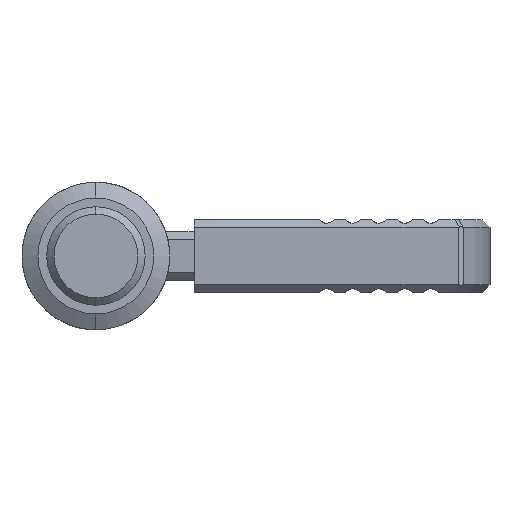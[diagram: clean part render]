
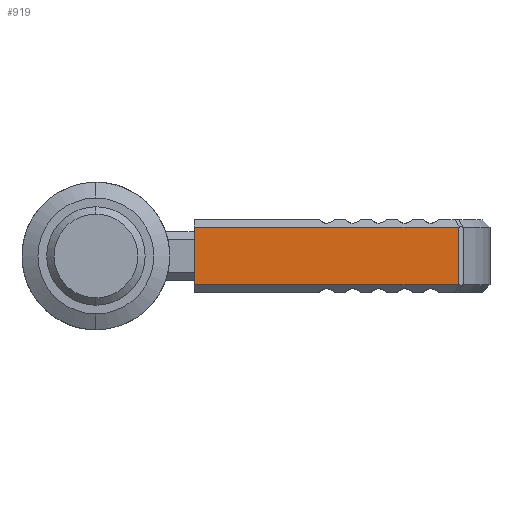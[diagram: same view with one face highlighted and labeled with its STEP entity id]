
A CAD part, front view. The second image highlights one B-rep face of the part: STEP entity #919.
In plain terms, the highlighted planar face has unit normal (0, -1, 0).
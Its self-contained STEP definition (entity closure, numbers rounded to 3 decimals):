
#697 = VERTEX_POINT ( 'NONE', #2456 ) ;
#727 = EDGE_CURVE ( 'NONE', #729, #697, #2462, .T. ) ;
#729 = VERTEX_POINT ( 'NONE', #2516 ) ;
#912 = EDGE_LOOP ( 'NONE', ( #955, #953, #941, #944 ) ) ;
#919 = ADVANCED_FACE ( 'NONE', ( #2865 ), #2864, .F. ) ;
#940 = VERTEX_POINT ( 'NONE', #2890 ) ;
#941 = ORIENTED_EDGE ( 'NONE', *, *, #943, .T. ) ;
#943 = EDGE_CURVE ( 'NONE', #940, #697, #2880, .T. ) ;
#944 = ORIENTED_EDGE ( 'NONE', *, *, #727, .F. ) ;
#948 = EDGE_CURVE ( 'NONE', #729, #950, #2876, .T. ) ;
#950 = VERTEX_POINT ( 'NONE', #2872 ) ;
#952 = EDGE_CURVE ( 'NONE', #950, #940, #2870, .T. ) ;
#953 = ORIENTED_EDGE ( 'NONE', *, *, #952, .T. ) ;
#955 = ORIENTED_EDGE ( 'NONE', *, *, #948, .T. ) ;
#2456 = CARTESIAN_POINT ( 'NONE',  ( -2.349, -7., 0. ) ) ;
#2461 = CARTESIAN_POINT ( 'NONE',  ( 2.95, -7., 0. ) ) ;
#2462 = LINE ( 'NONE', #2461, #2522 ) ;
#2516 = CARTESIAN_POINT ( 'NONE',  ( 2.349, -7., 0. ) ) ;
#2521 = DIRECTION ( 'NONE',  ( -1., 0., 0. ) ) ;
#2522 = VECTOR ( 'NONE', #2521, 1000. ) ;
#2860 = DIRECTION ( 'NONE',  ( 0., 0., 1. ) ) ;
#2861 = DIRECTION ( 'NONE',  ( 0., 1., 0. ) ) ;
#2862 = CARTESIAN_POINT ( 'NONE',  ( 2.95, -7., 0. ) ) ;
#2863 = AXIS2_PLACEMENT_3D ( 'NONE', #2862, #2861, #2860 ) ;
#2864 = PLANE ( 'NONE',  #2863 ) ;
#2865 = FACE_OUTER_BOUND ( 'NONE', #912, .T. ) ;
#2867 = DIRECTION ( 'NONE',  ( -1., 0., 0. ) ) ;
#2868 = VECTOR ( 'NONE', #2867, 1000. ) ;
#2869 = CARTESIAN_POINT ( 'NONE',  ( 2.95, -7., 21.414 ) ) ;
#2870 = LINE ( 'NONE', #2869, #2868 ) ;
#2872 = CARTESIAN_POINT ( 'NONE',  ( 2.349, -7., 21.414 ) ) ;
#2873 = DIRECTION ( 'NONE',  ( 0., 0., 1. ) ) ;
#2874 = VECTOR ( 'NONE', #2873, 1000. ) ;
#2875 = CARTESIAN_POINT ( 'NONE',  ( 2.349, -7., 0. ) ) ;
#2876 = LINE ( 'NONE', #2875, #2874 ) ;
#2877 = DIRECTION ( 'NONE',  ( 0., 0., -1. ) ) ;
#2878 = VECTOR ( 'NONE', #2877, 1000. ) ;
#2879 = CARTESIAN_POINT ( 'NONE',  ( -2.349, -7., 0. ) ) ;
#2880 = LINE ( 'NONE', #2879, #2878 ) ;
#2890 = CARTESIAN_POINT ( 'NONE',  ( -2.349, -7., 21.414 ) ) ;
